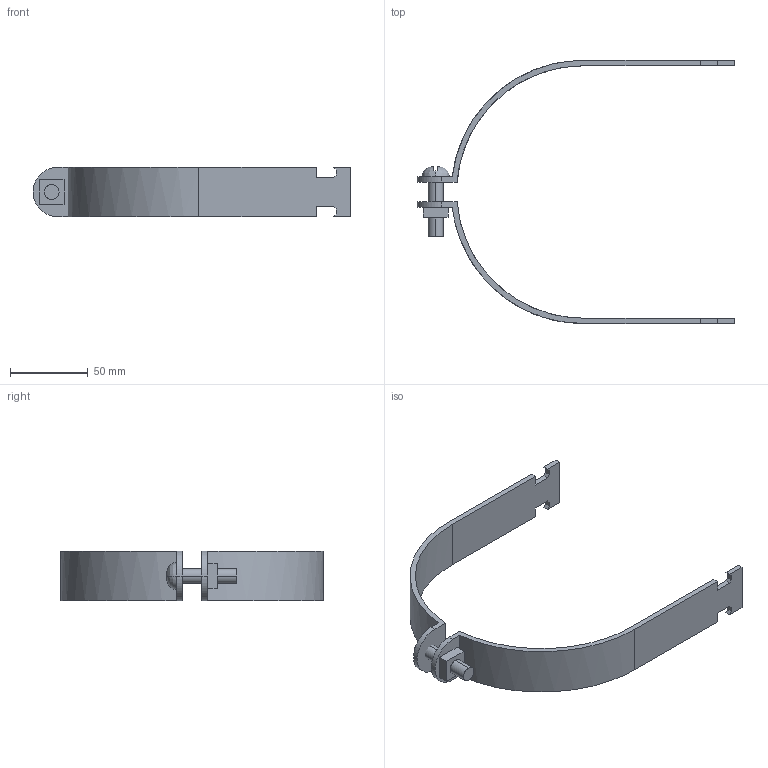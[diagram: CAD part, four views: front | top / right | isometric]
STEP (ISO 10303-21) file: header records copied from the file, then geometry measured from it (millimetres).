
FILE_DESCRIPTION(('TurboCAD Mac Pro'),'Build 980');
FILE_NAME('P2070-63.stp',' ',(''),(''),'ACIS Interop','IMSI','TurboCAD Mac Pro BY IMSI, INCORPORATED');
FILE_SCHEMA(('automotive_design'));
Length unit declared in the file: inch
Products named in the file (5): 1; 2; 3; 4; 5
Bounding box: 204 x 168.82 x 31.75 mm (x, y, z)
Volume: 56055.4 mm3; surface area: 36521.7 mm2
Topology: 4 solids, 4 shells, 71 faces, 186 edges, 124 vertices
Faces by surface type: plane 51, bspline 20
Entity records: 3487 total; most frequent: CARTESIAN_POINT 1050, ORIENTED_EDGE 372, DIRECTION 258, EDGE_CURVE 186, LINE 138, VECTOR 138, VERTEX_POINT 124, STYLED_ITEM 91
